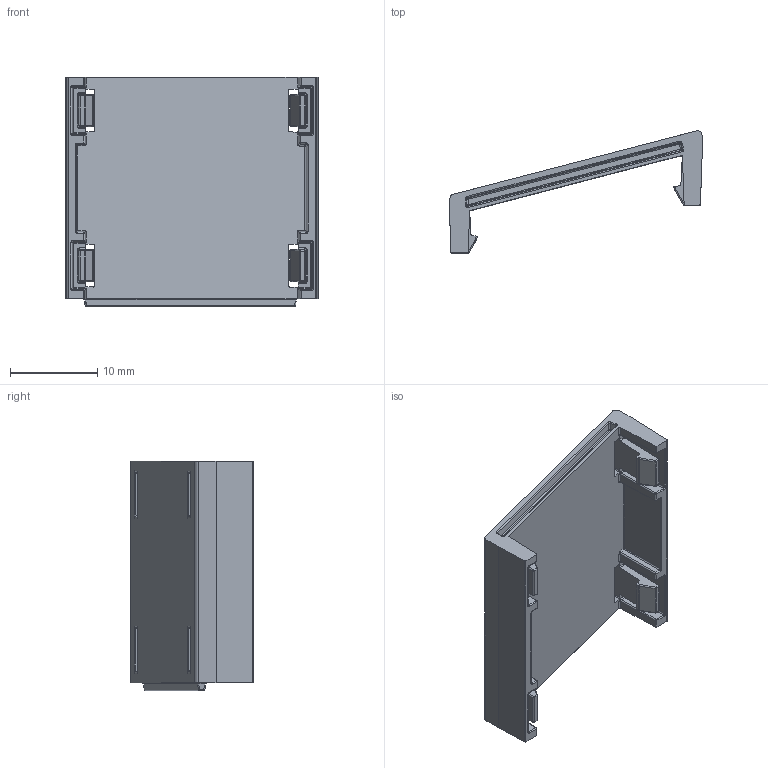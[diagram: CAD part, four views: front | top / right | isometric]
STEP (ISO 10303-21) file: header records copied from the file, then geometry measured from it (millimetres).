
FILE_DESCRIPTION (( 'STEP AP214' ), '1' );
FILE_NAME ('MCP-000397-00 REV D.STEP', '2022-09-16T15:52:10', ( '' ), ( '' ), 'SwSTEP 2.0', 'SolidWorks 2020', '' );
FILE_SCHEMA (( 'AUTOMOTIVE_DESIGN' ));
Length unit declared in the file: inch
Products named in the file (1): MCP-000397-00 REV D
Bounding box: 28.96 x 14 x 26.29 mm (x, y, z)
Volume: 2053.7 mm3; surface area: 2738.8 mm2
Topology: 1 solids, 1 shells, 431 faces, 1002 edges, 571 vertices
Faces by surface type: cylinder 199, plane 94, bspline 80, sphere 58
Entity records: 13109 total; most frequent: CARTESIAN_POINT 3872, ORIENTED_EDGE 2004, DIRECTION 1805, EDGE_CURVE 1002, AXIS2_PLACEMENT_3D 670, VERTEX_POINT 571, VECTOR 465, LINE 465
